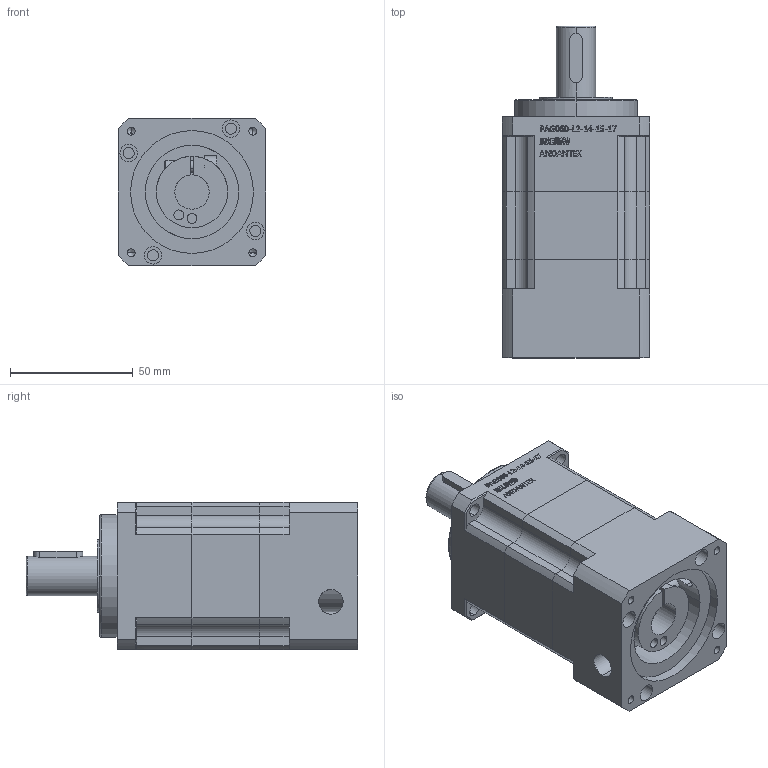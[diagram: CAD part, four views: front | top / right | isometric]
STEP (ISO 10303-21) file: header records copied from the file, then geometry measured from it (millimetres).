
FILE_DESCRIPTION (( 'STEP AP203' ), '1' );
FILE_NAME ('PAG060-L2-14-50-70.STEP', '2022-07-18T07:42:08', ( 'Windows User' ), ( 'P R C' ), 'SwSTEP 2.0', 'SolidWorks 2016', '' );
FILE_SCHEMA (( 'CONFIG_CONTROL_DESIGN' ));
Length unit declared in the file: millimetre
Products named in the file (6): PAG060奻裔啣; PAG060狟裔啣; 邧埴瑩 5x5x20; PAG060图二级齿圈; 囀鞠褒蹟佪-M5℅16; PAG060-L2-14-50-70
Assembly tree (5 placements, depth 2):
  PAG060-L2-14-50-70
    PAG060奻裔啣
    PAG060狟裔啣
    邧埴瑩 5x5x20
    PAG060图二级齿圈
    囀鞠褒蹟佪-M5℅16
Bounding box: 60 x 135 x 60 mm (x, y, z)
Volume: 311990.9 mm3; surface area: 60976.7 mm2
Topology: 5 solids, 5 shells, 821 faces, 2171 edges, 1428 vertices
Faces by surface type: plane 517, cylinder 138, bspline 130, cone 28, torus 8
Entity records: 31273 total; most frequent: CARTESIAN_POINT 10987, ORIENTED_EDGE 4306, DIRECTION 3561, EDGE_CURVE 2153, VECTOR 1553, LINE 1553, VERTEX_POINT 1428, AXIS2_PLACEMENT_3D 1004
